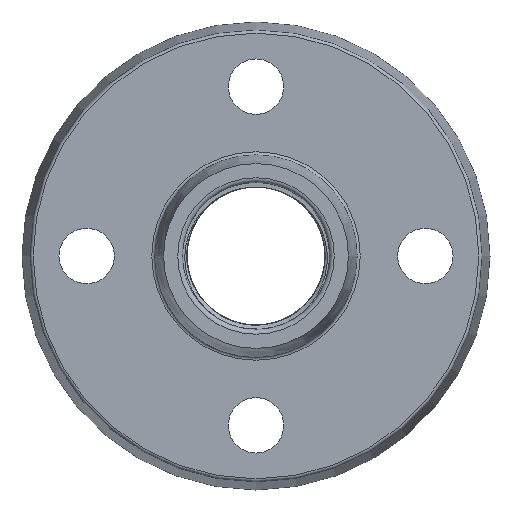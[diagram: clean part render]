
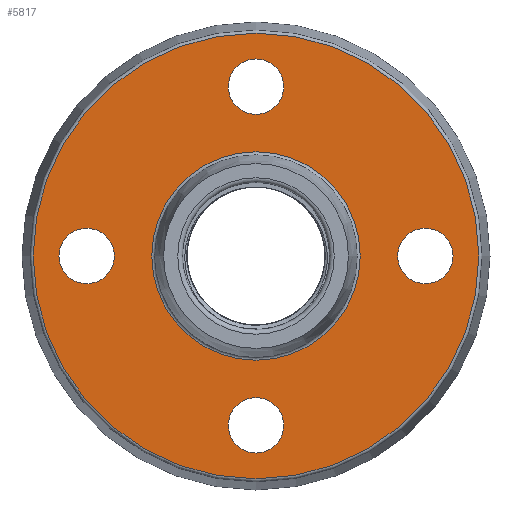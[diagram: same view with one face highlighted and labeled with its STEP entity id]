
A CAD part, left-side view. The second image highlights one B-rep face of the part: STEP entity #5817.
In plain terms, the highlighted planar face has unit normal (-1, 0, 0).
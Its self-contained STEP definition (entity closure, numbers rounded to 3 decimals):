
#55=FACE_BOUND('',#1576,.T.);
#56=FACE_BOUND('',#1577,.T.);
#57=FACE_BOUND('',#1578,.T.);
#58=FACE_BOUND('',#1579,.T.);
#59=FACE_BOUND('',#1580,.T.);
#153=PLANE('',#6839);
#1126=FACE_OUTER_BOUND('',#1575,.T.);
#1575=EDGE_LOOP('',(#5176));
#1576=EDGE_LOOP('',(#5177));
#1577=EDGE_LOOP('',(#5178));
#1578=EDGE_LOOP('',(#5179));
#1579=EDGE_LOOP('',(#5180));
#1580=EDGE_LOOP('',(#5181));
#2229=CIRCLE('',#6823,9.);
#2231=CIRCLE('',#6827,9.);
#2233=CIRCLE('',#6831,9.);
#2235=CIRCLE('',#6835,9.);
#2236=CIRCLE('',#6837,33.841);
#2238=CIRCLE('',#6840,72.376);
#2694=VERTEX_POINT('',#10963);
#2696=VERTEX_POINT('',#10969);
#2698=VERTEX_POINT('',#10975);
#2700=VERTEX_POINT('',#10981);
#2701=VERTEX_POINT('',#10984);
#2703=VERTEX_POINT('',#10989);
#3531=EDGE_CURVE('',#2694,#2694,#2229,.T.);
#3533=EDGE_CURVE('',#2696,#2696,#2231,.T.);
#3535=EDGE_CURVE('',#2698,#2698,#2233,.T.);
#3537=EDGE_CURVE('',#2700,#2700,#2235,.T.);
#3538=EDGE_CURVE('',#2701,#2701,#2236,.T.);
#3540=EDGE_CURVE('',#2703,#2703,#2238,.T.);
#5176=ORIENTED_EDGE('',*,*,#3540,.F.);
#5177=ORIENTED_EDGE('',*,*,#3533,.T.);
#5178=ORIENTED_EDGE('',*,*,#3535,.T.);
#5179=ORIENTED_EDGE('',*,*,#3537,.T.);
#5180=ORIENTED_EDGE('',*,*,#3531,.T.);
#5181=ORIENTED_EDGE('',*,*,#3538,.F.);
#5817=ADVANCED_FACE('',(#1126,#55,#56,#57,#58,#59),#153,.T.);
#6823=AXIS2_PLACEMENT_3D('',#10964,#9017,#9018);
#6827=AXIS2_PLACEMENT_3D('',#10970,#9025,#9026);
#6831=AXIS2_PLACEMENT_3D('',#10976,#9033,#9034);
#6835=AXIS2_PLACEMENT_3D('',#10982,#9041,#9042);
#6837=AXIS2_PLACEMENT_3D('',#10985,#9045,#9046);
#6839=AXIS2_PLACEMENT_3D('',#10988,#9049,#9050);
#6840=AXIS2_PLACEMENT_3D('',#10990,#9051,#9052);
#9017=DIRECTION('center_axis',(1.,0.,0.));
#9018=DIRECTION('ref_axis',(0.,0.,1.));
#9025=DIRECTION('center_axis',(1.,0.,0.));
#9026=DIRECTION('ref_axis',(0.,1.,0.));
#9033=DIRECTION('center_axis',(1.,0.,0.));
#9034=DIRECTION('ref_axis',(0.,0.,-1.));
#9041=DIRECTION('center_axis',(1.,0.,0.));
#9042=DIRECTION('ref_axis',(0.,-1.,0.));
#9045=DIRECTION('center_axis',(-1.,0.,0.));
#9046=DIRECTION('ref_axis',(0.,1.,0.));
#9049=DIRECTION('center_axis',(-1.,0.,0.));
#9050=DIRECTION('ref_axis',(0.,0.,1.));
#9051=DIRECTION('center_axis',(1.,0.,0.));
#9052=DIRECTION('ref_axis',(0.,1.,0.));
#10963=CARTESIAN_POINT('',(17.25,55.,9.));
#10964=CARTESIAN_POINT('Origin',(17.25,55.,0.));
#10969=CARTESIAN_POINT('',(17.25,9.,-55.));
#10970=CARTESIAN_POINT('Origin',(17.25,0.,-55.));
#10975=CARTESIAN_POINT('',(17.25,-55.,-9.));
#10976=CARTESIAN_POINT('Origin',(17.25,-55.,0.));
#10981=CARTESIAN_POINT('',(17.25,-9.,55.));
#10982=CARTESIAN_POINT('Origin',(17.25,0.,55.));
#10984=CARTESIAN_POINT('',(17.25,-33.841,0.));
#10985=CARTESIAN_POINT('Origin',(17.25,0.,0.));
#10988=CARTESIAN_POINT('Origin',(17.25,-33.,0.));
#10989=CARTESIAN_POINT('',(17.25,-72.376,0.));
#10990=CARTESIAN_POINT('Origin',(17.25,0.,0.));
